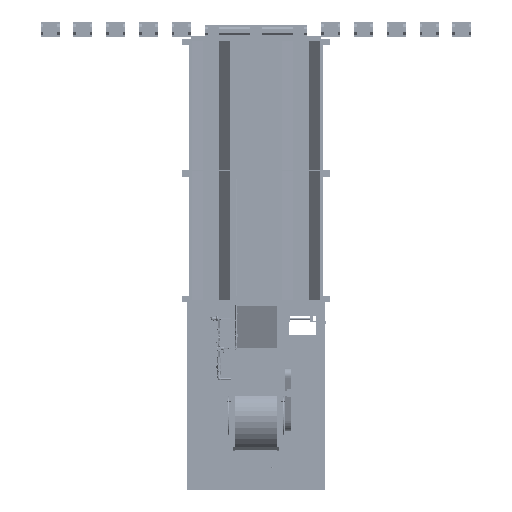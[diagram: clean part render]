
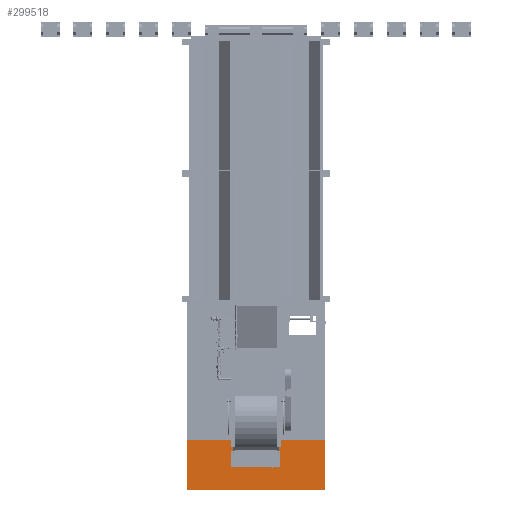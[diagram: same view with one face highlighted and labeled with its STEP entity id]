
A CAD part, front view. The second image highlights one B-rep face of the part: STEP entity #299518.
In plain terms, the highlighted planar face has unit normal (0, -1, 0) as drawn and (1, 0, 0) by its records, which use the part's own axes.
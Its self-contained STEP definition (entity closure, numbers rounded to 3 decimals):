
#59382=FACE_OUTER_BOUND('',#77388,.T.);
#77388=EDGE_LOOP('',(#270858,#270859,#270860,#270861));
#98874=LINE('',#728157,#121582);
#98910=LINE('',#728225,#121618);
#98922=LINE('',#728248,#121630);
#98923=LINE('',#728249,#121631);
#121582=VECTOR('',#397470,0.394);
#121618=VECTOR('',#397524,0.394);
#121630=VECTOR('',#397548,0.394);
#121631=VECTOR('',#397549,0.394);
#148902=VERTEX_POINT('',#728154);
#148903=VERTEX_POINT('',#728156);
#148926=VERTEX_POINT('',#728223);
#148931=VERTEX_POINT('',#728247);
#189954=EDGE_CURVE('',#148902,#148903,#98874,.T.);
#189990=EDGE_CURVE('',#148902,#148926,#98910,.T.);
#190002=EDGE_CURVE('',#148926,#148931,#98922,.T.);
#190003=EDGE_CURVE('',#148931,#148903,#98923,.T.);
#270858=ORIENTED_EDGE('',*,*,#189990,.T.);
#270859=ORIENTED_EDGE('',*,*,#190002,.T.);
#270860=ORIENTED_EDGE('',*,*,#190003,.T.);
#270861=ORIENTED_EDGE('',*,*,#189954,.F.);
#283534=PLANE('',#326610);
#299518=ADVANCED_FACE('',(#59382),#283534,.T.);
#326610=AXIS2_PLACEMENT_3D('',#728246,#397546,#397547);
#397470=DIRECTION('',(0.,0.,1.));
#397524=DIRECTION('',(0.,1.,0.));
#397546=DIRECTION('center_axis',(1.,0.,0.));
#397547=DIRECTION('ref_axis',(0.,0.,-1.));
#397548=DIRECTION('',(0.,0.,1.));
#397549=DIRECTION('',(0.,-1.,0.));
#728154=CARTESIAN_POINT('',(-0.125,-30.,101.063));
#728156=CARTESIAN_POINT('',(-0.125,-30.,137.75));
#728157=CARTESIAN_POINT('',(-0.125,-30.,0.));
#728223=CARTESIAN_POINT('',(-0.125,70.5,101.063));
#728225=CARTESIAN_POINT('',(-0.125,20.25,101.063));
#728246=CARTESIAN_POINT('Origin',(-0.125,70.5,0.));
#728247=CARTESIAN_POINT('',(-0.125,70.5,137.75));
#728248=CARTESIAN_POINT('',(-0.125,70.5,0.));
#728249=CARTESIAN_POINT('',(-0.125,-30.,137.75));
